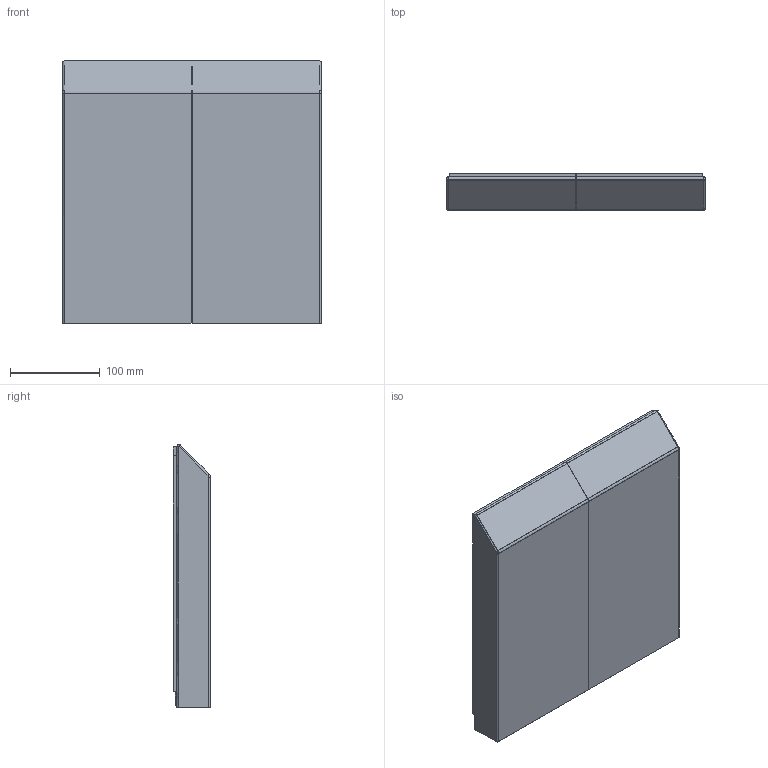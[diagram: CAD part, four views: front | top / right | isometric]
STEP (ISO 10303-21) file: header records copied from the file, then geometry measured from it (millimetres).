
FILE_DESCRIPTION(/* description */ (''),/* implementation_level */ '2;1');
FILE_NAME(/* name */ 'ssc-15 (x clienti)',/* time_stamp */ '2016-04-15T09:28:51+02:00',/* author */ (''),/* organization */ (''),/* preprocessor_version */ 'ST-DEVELOPER v10',/* originating_system */ '',/* authorisation */ '');
FILE_SCHEMA (('CONFIG_CONTROL_DESIGN'));
Length unit declared in the file: millimetre
Products named in the file (1): 1
Bounding box: 288 x 41.5 x 292.99 mm (x, y, z)
Volume: 155587.4 mm3; surface area: 296722.7 mm2
Topology: 10 solids, 12 shells, 162 faces, 396 edges, 256 vertices
Faces by surface type: bspline 110, plane 52
Entity records: 5300 total; most frequent: CARTESIAN_POINT 2873, ORIENTED_EDGE 784, EDGE_CURVE 396, VERTEX_POINT 256, B_SPLINE_CURVE_WITH_KNOTS 190, ADVANCED_FACE 162, FACE_OUTER_BOUND 162, EDGE_LOOP 162
